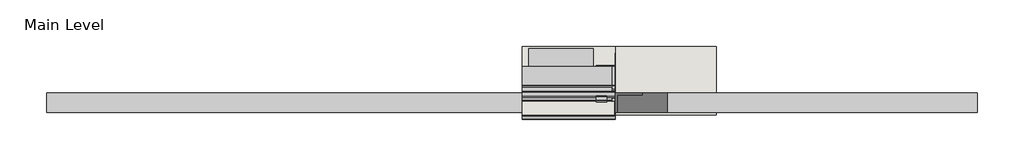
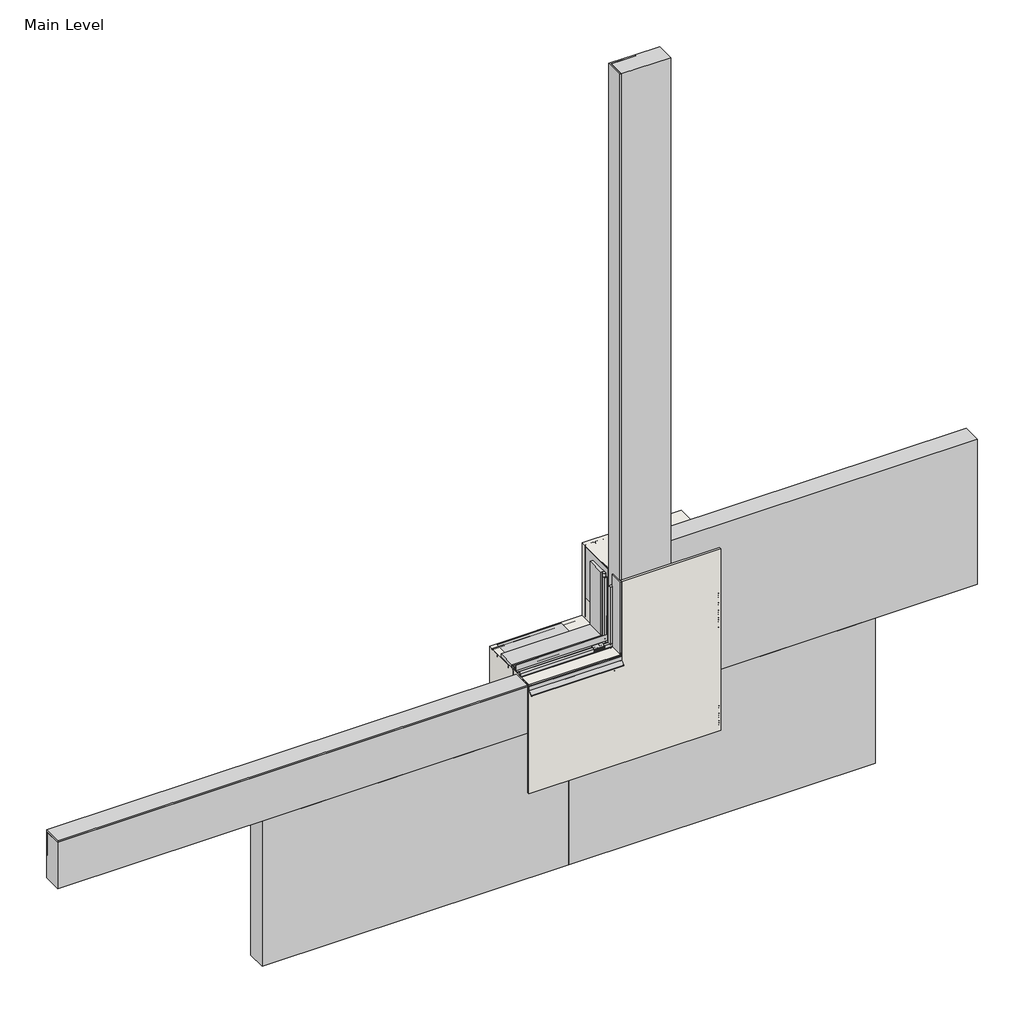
# One storey, incomplete: 22 proxies, 1 wall.
"""IFC4 building model written with IfcOpenShell, lengths in millimetres."""

from ifc_helpers import new_model, si_unit, frame, origin, place, context, project, spatial, polyline, outline, extrude, transform, mapped, element, save
from components import generic_models_31547c53, generic_models_d28646c3, generic_models_4f6b713c, generic_models_388356b2, generic_models_2850309d, generic_models_672f9cdd, generic_models_9b4c3a2c, generic_models_3fb7d6d8, proxy_ba8d72b4, proxy_a98eb32a, proxy_9e09e9f6, proxy_81afb05a, finish_coat_filler_finish_coat_filler_dfa12fb7, masonry_sill_masonry_sill_b8c52efa, masonry_sill1_masonry_sill_349c8951, masonry_sill3_masonry_sill_9eb3d358, masonry_sill4_masonry_sill_9228ef93, proxy_a3fd9b0b, proxy_3a0ad636, proxy_0073da47, proxy_6f3203ff, window_header_window_header_abd4ef46, wood_blocking_5320d369

model = new_model("IFC4")

# Units and contexts
model_context = context("Model", 3, world=origin())
ifc_project = project(units=[si_unit("LENGTHUNIT", "METRE", prefix="MILLI")], contexts=[model_context])

# Site, building, storey
site = spatial("IfcSite", under=ifc_project)
building = spatial("IfcBuilding", under=site)
storey = spatial("IfcBuildingStorey", under=building, Name="Main Level", Elevation=0.0)

# Proxies
placement = place(None, origin())
generic_models_shape = generic_models_31547c53(model_context)
element("IfcBuildingElementProxy", 1, Name="Durabond Generic Model Sealant Vent : Durabond Generic Model Sealant Vent", ObjectType="Durabond Generic Model Sealant Vent : Durabond Generic Model Sealant Vent", at=placement, inside=storey, context=model_context, shape_type="MappedRepresentation", body=[
    mapped(generic_models_shape, transform((26800.7195523, 590.8476543, 464.646745), x_axis=(1.0, 0.0, 0.0), y_axis=(0.0, 0.08715574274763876, -0.9961946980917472), z_axis=(0.0, 0.9961946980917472, 0.08715574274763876))),
])
generic_models_2_shape = generic_models_d28646c3(model_context)
element("IfcBuildingElementProxy", 2, Name="CRAi Generic Model Line Based Drip Deflector : CRAi Generic Model Line Based Drip Deflector", ObjectType="CRAi Generic Model Line Based Drip Deflector : CRAi Generic Model Line Based Drip Deflector", at=placement, inside=storey, context=model_context, shape_type="MappedRepresentation", body=[
    mapped(generic_models_2_shape, transform((26855.8851773, 535.1829375, 451.8088934), x_axis=(0.0, 0.996194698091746, 0.08715574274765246), y_axis=(-1.0, 0.0, 0.0), z_axis=(0.0, -0.0871557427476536, 0.996194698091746))),
])
generic_models_3_shape = generic_models_4f6b713c(model_context)
generic_models_4_shape = generic_models_388356b2(model_context)
generic_models_5_shape = generic_models_2850309d(model_context)
element("IfcBuildingElementProxy", 3, Name="CRAi Generic Model Mesh Piece Face Based : CRAi Generic Model Mesh Piece Face Based", ObjectType="CRAi Generic Model Mesh Piece Face Based : CRAi Generic Model Mesh Piece Face Based", at=placement, inside=storey, context=model_context, shape_type="MappedRepresentation", body=[
    mapped(generic_models_3_shape, transform((27052.7351773, 541.9066297, 504.9011686), x_axis=(-1.0, 0.0, 0.0), y_axis=(0.0, 0.0, -1.0), z_axis=(0.0, -1.0, 0.0))),
    mapped(generic_models_4_shape, transform((27052.7351773, 541.9066297, 504.9011686), x_axis=(-1.0, 0.0, 0.0), y_axis=(0.0, 0.0, -1.0), z_axis=(0.0, -1.0, 0.0))),
    mapped(generic_models_5_shape, transform((27052.7351773, 541.9066297, 504.9011686), x_axis=(-1.0, 0.0, 0.0), y_axis=(0.0, 0.0, -1.0), z_axis=(0.0, -1.0, 0.0))),
])
generic_models_6_shape = generic_models_672f9cdd(model_context)
generic_models_7_shape = generic_models_9b4c3a2c(model_context)
generic_models_8_shape = generic_models_3fb7d6d8(model_context)
element("IfcBuildingElementProxy", 4, Name="CRAi Generic Model Mesh Piece Face Based : CRAi Generic Model Mesh Piece Face Based", ObjectType="CRAi Generic Model Mesh Piece Face Based : CRAi Generic Model Mesh Piece Face Based", at=placement, inside=storey, context=model_context, shape_type="MappedRepresentation", body=[
    mapped(generic_models_6_shape, transform((26990.8226773, 541.9066297, 50.8), x_axis=(-1.0, 0.0, 0.0), y_axis=(0.0, 0.0, -1.0), z_axis=(0.0, -1.0, 0.0))),
    mapped(generic_models_7_shape, transform((26990.8226773, 541.9066297, 50.8), x_axis=(-1.0, 0.0, 0.0), y_axis=(0.0, 0.0, -1.0), z_axis=(0.0, -1.0, 0.0))),
    mapped(generic_models_8_shape, transform((26990.8226773, 541.9066297, 50.8), x_axis=(-1.0, 0.0, 0.0), y_axis=(0.0, 0.0, -1.0), z_axis=(0.0, -1.0, 0.0))),
])
proxy_shape = proxy_ba8d72b4(model_context)
element("IfcBuildingElementProxy", 5, Name="Durabond Generic Model Equalite Select Boundary Board : 3\"", ObjectType="Durabond Generic Model Equalite Select Boundary Board : 3\"", at=placement, inside=storey, context=model_context, shape_type="MappedRepresentation", body=[
    mapped(proxy_shape, transform((25839.8851773, 624.4566297, 349.375778), x_axis=(-1.0, 0.0, 0.0), y_axis=(0.0, 0.0, -1.0), z_axis=(0.0, -1.0, 0.0))),
])
proxy_2_shape = proxy_a98eb32a(model_context)
element("IfcBuildingElementProxy", 6, Name="Durabond Generic Model Equalite Select Boundary Board : 3\"", ObjectType="Durabond Generic Model Equalite Select Boundary Board : 3\"", at=placement, inside=storey, context=model_context, shape_type="MappedRepresentation", body=[
    mapped(proxy_2_shape, transform((26957.4851773, 624.4566297, 1670.175778), x_axis=(0.0, 0.0, 1.0), y_axis=(-1.0, 0.0, 0.0), z_axis=(0.0, -1.0, 0.0))),
])
proxy_3_shape = proxy_9e09e9f6(model_context)
element("IfcBuildingElementProxy", 7, Name="Durabond Generic Model Equalite Insulation Board : 3\"", ObjectType="Durabond Generic Model Equalite Insulation Board : 3\"", at=placement, inside=storey, context=model_context, shape_type="MappedRepresentation", body=[
    mapped(proxy_3_shape, transform((27262.2851773, 624.4566297, -57.024222), x_axis=(1.0, 0.0, 0.0), y_axis=(0.0, 0.0, 1.0), z_axis=(0.0, -1.0, 0.0))),
])
element("IfcBuildingElementProxy", 8, Name="Durabond Generic Model Equalite Insulation Board : 3\"", ObjectType="Durabond Generic Model Equalite Insulation Board : 3\"", at=placement, inside=storey, context=model_context, shape_type="MappedRepresentation", body=[
    mapped(proxy_3_shape, transform((27668.6851773, 624.4566297, 552.575778), x_axis=(1.0, 0.0, 0.0), y_axis=(0.0, 0.0, 1.0), z_axis=(0.0, -1.0, 0.0))),
])
proxy_4_shape = proxy_81afb05a(model_context)
element("IfcBuildingElementProxy", 9, Name="Durabond Generic Model Equalite Insulation Board : 3\"", ObjectType="Durabond Generic Model Equalite Insulation Board : 3\"", at=placement, inside=storey, context=model_context, shape_type="MappedRepresentation", body=[
    mapped(proxy_4_shape, transform((26043.0851773, 624.4566297, -57.024222), x_axis=(-1.0, 0.0, 0.0), y_axis=(0.0, 0.0, -1.0), z_axis=(0.0, -1.0, 0.0))),
])
finish_coat_filler_finish_coat_filler_shape = finish_coat_filler_finish_coat_filler_dfa12fb7(model_context)
element("IfcBuildingElementProxy", 10, Name="Finish Coat Filler : Finish Coat Filler", ObjectType="Finish Coat Filler : Finish Coat Filler", at=placement, inside=storey, context=model_context, shape_type="MappedRepresentation", body=[
    mapped(finish_coat_filler_finish_coat_filler_shape, transform((0.0, 0.0, 0.0), x_axis=(1.0, 0.0, 0.0), y_axis=(0.0, 1.0, 0.0), z_axis=(0.0, 0.0, 1.0))),
])
masonry_sill_masonry_sill_shape = masonry_sill_masonry_sill_b8c52efa(model_context)
element("IfcBuildingElementProxy", 11, Name="Masonry Sill : Masonry Sill", ObjectType="Masonry Sill : Masonry Sill", at=placement, inside=storey, context=model_context, shape_type="MappedRepresentation", body=[
    mapped(masonry_sill_masonry_sill_shape, transform((0.0, 0.0, 0.0), x_axis=(1.0, 0.0, 0.0), y_axis=(0.0, 1.0, 0.0), z_axis=(0.0, 0.0, 1.0))),
])
masonry_sill1_masonry_sill_shape = masonry_sill1_masonry_sill_349c8951(model_context)
element("IfcBuildingElementProxy", 12, Name="Masonry Sill1 : Masonry Sill", ObjectType="Masonry Sill1 : Masonry Sill", at=placement, inside=storey, context=model_context, shape_type="MappedRepresentation", body=[
    mapped(masonry_sill1_masonry_sill_shape, transform((0.0, 0.0, 0.0), x_axis=(1.0, 0.0, 0.0), y_axis=(0.0, 1.0, 0.0), z_axis=(0.0, 0.0, 1.0))),
])
masonry_sill3_masonry_sill_shape = masonry_sill3_masonry_sill_9eb3d358(model_context)
element("IfcBuildingElementProxy", 13, Name="Masonry Sill3 : Masonry Sill", ObjectType="Masonry Sill3 : Masonry Sill", at=placement, inside=storey, context=model_context, shape_type="MappedRepresentation", body=[
    mapped(masonry_sill3_masonry_sill_shape, transform((0.0, 0.0, 0.0), x_axis=(1.0, 0.0, 0.0), y_axis=(0.0, 1.0, 0.0), z_axis=(0.0, 0.0, 1.0))),
])
masonry_sill4_masonry_sill_shape = masonry_sill4_masonry_sill_9228ef93(model_context)
element("IfcBuildingElementProxy", 14, Name="Masonry Sill4 : Masonry Sill", ObjectType="Masonry Sill4 : Masonry Sill", at=placement, inside=storey, context=model_context, shape_type="MappedRepresentation", body=[
    mapped(masonry_sill4_masonry_sill_shape, transform((0.0, 0.0, -101.6), x_axis=(1.0, 0.0, 0.0), y_axis=(0.0, 1.0, 0.0), z_axis=(0.0, 0.0, 1.0))),
])
proxy_5_shape = proxy_a3fd9b0b(model_context)
element("IfcBuildingElementProxy", 15, Name="CRAi Generic Model Metal Stud : Metal Framing Stud - 1\" x 3.5\"", ObjectType="CRAi Generic Model Metal Stud : Metal Framing Stud - 1\" x 3.5\"", at=placement, inside=storey, context=model_context, shape_type="MappedRepresentation", body=[
    mapped(proxy_5_shape, transform((26876.5226773, 726.0566297, 0.0), x_axis=(1.0, 0.0, 0.0), y_axis=(0.0, 1.0, 0.0), z_axis=(0.0, 0.0, 1.0))),
])
proxy_6_shape = proxy_3a0ad636(model_context)
element("IfcBuildingElementProxy", 16, Name="CRAi Generic Model Metal Stud : Metal Framing Stud - 1\" x 3.5\"", ObjectType="CRAi Generic Model Metal Stud : Metal Framing Stud - 1\" x 3.5\"", at=placement, inside=storey, context=model_context, shape_type="MappedRepresentation", body=[
    mapped(proxy_6_shape, transform((26876.5226773, 719.7066297, 0.0), x_axis=(1.0, 0.0, 0.0), y_axis=(0.0, 1.0, 0.0), z_axis=(0.0, 0.0, 1.0))),
])
proxy_7_shape = proxy_0073da47(model_context)
element("IfcBuildingElementProxy", 17, Name="CRAi Generic Model Metal Stud : Metal Framing Stud - 1\" x 3.5\"", ObjectType="CRAi Generic Model Metal Stud : Metal Framing Stud - 1\" x 3.5\"", at=placement, inside=storey, context=model_context, shape_type="MappedRepresentation", body=[
    mapped(proxy_7_shape, transform((26914.6226773, 719.7066297, 0.0), x_axis=(-1.0, 0.0, 0.0), y_axis=(0.0, -1.0, 0.0), z_axis=(0.0, 0.0, 1.0))),
])
proxy_8_shape = proxy_6f3203ff(model_context)
element("IfcBuildingElementProxy", 18, Name="CRAi Generic Model Metal Stud : Metal Framing Stud - 1\" x 3.5\"", ObjectType="CRAi Generic Model Metal Stud : Metal Framing Stud - 1\" x 3.5\"", at=placement, inside=storey, context=model_context, shape_type="MappedRepresentation", body=[
    mapped(proxy_8_shape, transform((26508.2226773, 719.7066297, 0.0), x_axis=(-1.0, 0.0, 0.0), y_axis=(0.0, -1.0, 0.0), z_axis=(0.0, 0.0, 1.0))),
])
window_header_window_header_shape = window_header_window_header_abd4ef46(model_context)
element("IfcBuildingElementProxy", 19, Name="Window Header : Window Header", ObjectType="Window Header : Window Header", at=placement, inside=storey, context=model_context, shape_type="MappedRepresentation", body=[
    mapped(window_header_window_header_shape, transform((0.0, -6.35, 0.0), x_axis=(1.0, 0.0, 0.0), y_axis=(0.0, 1.0, 0.0), z_axis=(0.0, 0.0, 1.0))),
])
wood_blocking_shape = wood_blocking_5320d369(model_context)
element("IfcBuildingElementProxy", 20, Name="CRAi Generic Model Line Based Metal Framing Track : Wood Blocking", ObjectType="CRAi Generic Model Line Based Metal Framing Track : Wood Blocking", at=placement, inside=storey, context=model_context, shape_type="MappedRepresentation", body=[
    mapped(wood_blocking_shape, transform((26489.1726773, 643.5066297, 304.8), x_axis=(1.0, 0.0, 0.0), y_axis=(0.0, 1.0, 0.0), z_axis=(0.0, 0.0, 1.0))),
])
element("IfcBuildingElementProxy", 21, Name="CRAi Generic Model Line Based Metal Framing Track : Wood Blocking", ObjectType="CRAi Generic Model Line Based Metal Framing Track : Wood Blocking", at=placement, inside=storey, context=model_context, shape_type="MappedRepresentation", body=[
    mapped(wood_blocking_shape, transform((26489.1726773, 795.907101, 457.2), x_axis=(1.0, 0.0, 0.0), y_axis=(0.0, -1.0, 0.0), z_axis=(0.0, 0.0, -1.0))),
])
element("IfcBuildingElementProxy", 22, Name="CRAi Generic Model Line Based Metal Framing Track : Wood Blocking", ObjectType="CRAi Generic Model Line Based Metal Framing Track : Wood Blocking", at=placement, inside=storey, context=model_context, shape_type="MappedRepresentation", body=[
    mapped(wood_blocking_shape, transform((26489.1726773, 795.9066297, 304.8), x_axis=(1.0, 0.0, 0.0), y_axis=(0.0, -1.0, 0.0), z_axis=(0.0, 0.0, -1.0))),
])

# Wall
element("IfcWall", 23, ObjectType="189mm (7.5”) EIFS Field Applied on Mtl. Stud Layer - 50mm Grooved Insulation Board Metal Stud Wall(AirStop) 2", at=placement, inside=storey, context=model_context, shape_type="SweptSolid", body=[
    extrude(outline(polyline([(0.0, 26489.1726773), (0.0, 27251.1726773), (762.0, 27251.1726773), (762.0, 26857.4726773), (457.2, 26857.4726773), (457.2, 26489.1726773), (0.0, 26489.1726773)])), frame((0.0, 538.7316297, 0.0), z_axis=(0.0, 1.0, 0.0), x_axis=(0.0, 0.0, 1.0)), (0.0, 0.0, 1.0), 269.875),
])

save(model, "model.ifc")
